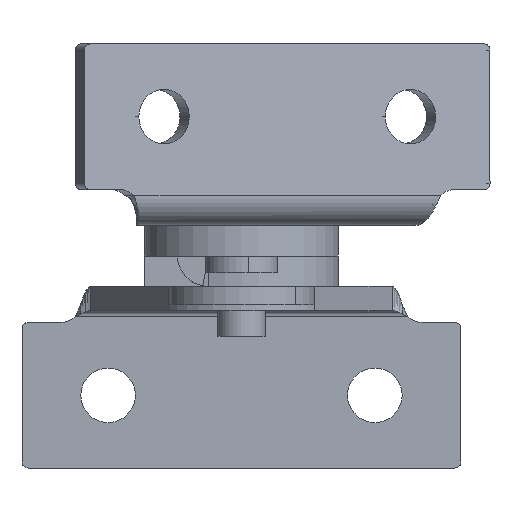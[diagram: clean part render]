
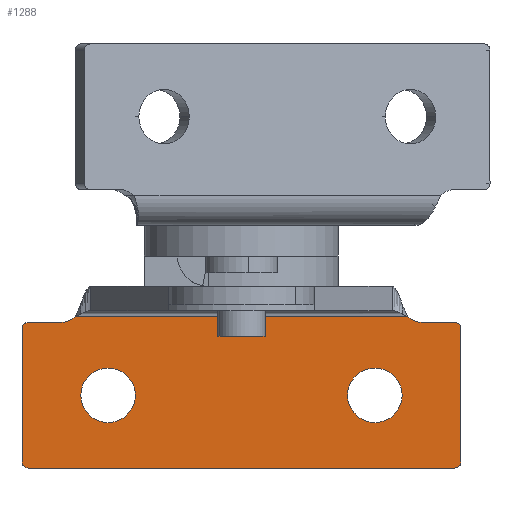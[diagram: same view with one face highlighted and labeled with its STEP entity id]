
A CAD part, left-side view. The second image highlights one B-rep face of the part: STEP entity #1288.
In plain terms, the highlighted planar face has unit normal (-1, 0, 0) as drawn and (0, 0, 1) by its records, which use the part's own axes.
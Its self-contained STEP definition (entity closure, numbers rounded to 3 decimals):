
#78 = AXIS2_PLACEMENT_3D ( 'NONE', #3071, #3076, #3094 ) ;
#79 = ORIENTED_EDGE ( 'NONE', *, *, #1983, .T. ) ;
#81 = VERTEX_POINT ( 'NONE', #2243 ) ;
#82 = DIRECTION ( 'NONE',  ( -1., 0., 0. ) ) ;
#118 = LINE ( 'NONE', #1682, #1425 ) ;
#125 = CARTESIAN_POINT ( 'NONE',  ( 15., 12.489, 0. ) ) ;
#133 = EDGE_CURVE ( 'NONE', #284, #2102, #696, .T. ) ;
#159 = ORIENTED_EDGE ( 'NONE', *, *, #2691, .T. ) ;
#182 = DIRECTION ( 'NONE',  ( -1., 0., 0. ) ) ;
#222 = LINE ( 'NONE', #125, #2673 ) ;
#237 = ORIENTED_EDGE ( 'NONE', *, *, #2628, .F. ) ;
#256 = CARTESIAN_POINT ( 'NONE',  ( 11., 6., 0. ) ) ;
#265 = DIRECTION ( 'NONE',  ( 0., 0., 1. ) ) ;
#272 = DIRECTION ( 'NONE',  ( 0., 1., 0. ) ) ;
#280 = CARTESIAN_POINT ( 'NONE',  ( 18.1, 0., 0. ) ) ;
#284 = VERTEX_POINT ( 'NONE', #2915 ) ;
#292 = DIRECTION ( 'NONE',  ( 1., 0., 0. ) ) ;
#307 = ORIENTED_EDGE ( 'NONE', *, *, #406, .F. ) ;
#368 = CARTESIAN_POINT ( 'NONE',  ( -15., 12., 0. ) ) ;
#406 = EDGE_CURVE ( 'NONE', #2102, #284, #2121, .T. ) ;
#428 = DIRECTION ( 'NONE',  ( 1., 0., 0. ) ) ;
#433 = DIRECTION ( 'NONE',  ( 0., 0., 1. ) ) ;
#440 = PLANE ( 'NONE',  #2817 ) ;
#461 = CIRCLE ( 'NONE', #983, 2.25 ) ;
#480 = EDGE_CURVE ( 'NONE', #1851, #2390, #1600, .T. ) ;
#495 = CARTESIAN_POINT ( 'NONE',  ( 15., 14., 0. ) ) ;
#537 = EDGE_CURVE ( 'NONE', #641, #2002, #1980, .T. ) ;
#571 = LINE ( 'NONE', #280, #3056 ) ;
#609 = CIRCLE ( 'NONE', #2244, 0.5 ) ;
#636 = DIRECTION ( 'NONE',  ( 1., 0., 0. ) ) ;
#641 = VERTEX_POINT ( 'NONE', #2138 ) ;
#649 = FACE_BOUND ( 'NONE', #1297, .T. ) ;
#653 = ORIENTED_EDGE ( 'NONE', *, *, #2927, .T. ) ;
#658 = DIRECTION ( 'NONE',  ( -1., 0., 0. ) ) ;
#695 = EDGE_CURVE ( 'NONE', #932, #81, #2233, .T. ) ;
#696 = CIRCLE ( 'NONE', #915, 2.25 ) ;
#708 = CARTESIAN_POINT ( 'NONE',  ( 18.1, 12., 0. ) ) ;
#715 = VERTEX_POINT ( 'NONE', #2697 ) ;
#727 = FACE_BOUND ( 'NONE', #1022, .T. ) ;
#732 = ORIENTED_EDGE ( 'NONE', *, *, #1562, .T. ) ;
#737 = CARTESIAN_POINT ( 'NONE',  ( 13.69, 12.489, 0. ) ) ;
#748 = AXIS2_PLACEMENT_3D ( 'NONE', #1265, #2400, #1200 ) ;
#809 = ORIENTED_EDGE ( 'NONE', *, *, #2545, .T. ) ;
#869 = EDGE_CURVE ( 'NONE', #81, #1910, #118, .T. ) ;
#873 = DIRECTION ( 'NONE',  ( 0., 0., 1. ) ) ;
#886 = CARTESIAN_POINT ( 'NONE',  ( 15., 12., 0. ) ) ;
#891 = ORIENTED_EDGE ( 'NONE', *, *, #2407, .F. ) ;
#893 = CARTESIAN_POINT ( 'NONE',  ( -17.6, 11.5, 0. ) ) ;
#914 = VERTEX_POINT ( 'NONE', #2949 ) ;
#915 = AXIS2_PLACEMENT_3D ( 'NONE', #2498, #2505, #2514 ) ;
#932 = VERTEX_POINT ( 'NONE', #2595 ) ;
#933 = CARTESIAN_POINT ( 'NONE',  ( -8.75, 6., 0. ) ) ;
#943 = CARTESIAN_POINT ( 'NONE',  ( -11., 6., 0. ) ) ;
#983 = AXIS2_PLACEMENT_3D ( 'NONE', #256, #265, #292 ) ;
#985 = DIRECTION ( 'NONE',  ( 0., 0., 1. ) ) ;
#996 = DIRECTION ( 'NONE',  ( 1., 0., 0. ) ) ;
#1022 = EDGE_LOOP ( 'NONE', ( #307, #2797 ) ) ;
#1103 = CARTESIAN_POINT ( 'NONE',  ( 11., 6., 0. ) ) ;
#1119 = DIRECTION ( 'NONE',  ( 0., 0., 1. ) ) ;
#1125 = DIRECTION ( 'NONE',  ( 1., 0., 0. ) ) ;
#1149 = VECTOR ( 'NONE', #658, 1000. ) ;
#1200 = DIRECTION ( 'NONE',  ( 1., 0., 0. ) ) ;
#1243 = DIRECTION ( 'NONE',  ( 1., 0., 0. ) ) ;
#1253 = AXIS2_PLACEMENT_3D ( 'NONE', #1620, #1664, #1243 ) ;
#1265 = CARTESIAN_POINT ( 'NONE',  ( -15., 14., 0. ) ) ;
#1288 = ADVANCED_FACE ( 'NONE', ( #727, #649, #2209 ), #440, .T. ) ;
#1297 = EDGE_LOOP ( 'NONE', ( #891, #237 ) ) ;
#1352 = EDGE_CURVE ( 'NONE', #914, #641, #571, .T. ) ;
#1388 = ORIENTED_EDGE ( 'NONE', *, *, #1597, .T. ) ;
#1402 = CARTESIAN_POINT ( 'NONE',  ( -17.6, 12., 0. ) ) ;
#1406 = CARTESIAN_POINT ( 'NONE',  ( -18.1, 12., 0. ) ) ;
#1425 = VECTOR ( 'NONE', #2611, 1000. ) ;
#1436 = DIRECTION ( 'NONE',  ( 0., -1., 0. ) ) ;
#1442 = CIRCLE ( 'NONE', #78, 0.5 ) ;
#1462 = ORIENTED_EDGE ( 'NONE', *, *, #537, .T. ) ;
#1502 = AXIS2_PLACEMENT_3D ( 'NONE', #1527, #1531, #1546 ) ;
#1527 = CARTESIAN_POINT ( 'NONE',  ( 15., 14., 0. ) ) ;
#1531 = DIRECTION ( 'NONE',  ( 0., 0., -1. ) ) ;
#1546 = DIRECTION ( 'NONE',  ( 1., 0., 0. ) ) ;
#1553 = LINE ( 'NONE', #1406, #2751 ) ;
#1562 = EDGE_CURVE ( 'NONE', #2437, #715, #609, .T. ) ;
#1564 = CARTESIAN_POINT ( 'NONE',  ( -15., 12., 0. ) ) ;
#1597 = EDGE_CURVE ( 'NONE', #2390, #2437, #2344, .T. ) ;
#1600 = CIRCLE ( 'NONE', #748, 2. ) ;
#1601 = CARTESIAN_POINT ( 'NONE',  ( -13.69, 12.489, 0. ) ) ;
#1620 = CARTESIAN_POINT ( 'NONE',  ( 17.6, 11.5, 0. ) ) ;
#1638 = CARTESIAN_POINT ( 'NONE',  ( 17.6, 0., 0. ) ) ;
#1664 = DIRECTION ( 'NONE',  ( 0., 0., 1. ) ) ;
#1682 = CARTESIAN_POINT ( 'NONE',  ( -18.1, 0., 0. ) ) ;
#1732 = VECTOR ( 'NONE', #182, 1000. ) ;
#1804 = CIRCLE ( 'NONE', #1502, 2. ) ;
#1851 = VERTEX_POINT ( 'NONE', #1601 ) ;
#1869 = AXIS2_PLACEMENT_3D ( 'NONE', #2477, #2460, #2524 ) ;
#1910 = VERTEX_POINT ( 'NONE', #1638 ) ;
#1921 = ORIENTED_EDGE ( 'NONE', *, *, #869, .T. ) ;
#1980 = CIRCLE ( 'NONE', #1253, 0.5 ) ;
#1981 = ORIENTED_EDGE ( 'NONE', *, *, #480, .T. ) ;
#1983 = EDGE_CURVE ( 'NONE', #715, #932, #1553, .T. ) ;
#2002 = VERTEX_POINT ( 'NONE', #2771 ) ;
#2021 = CARTESIAN_POINT ( 'NONE',  ( 8.75, 6., 0. ) ) ;
#2056 = ORIENTED_EDGE ( 'NONE', *, *, #1352, .T. ) ;
#2078 = CIRCLE ( 'NONE', #2329, 2.25 ) ;
#2102 = VERTEX_POINT ( 'NONE', #933 ) ;
#2109 = VERTEX_POINT ( 'NONE', #737 ) ;
#2121 = CIRCLE ( 'NONE', #2996, 2.25 ) ;
#2138 = CARTESIAN_POINT ( 'NONE',  ( 18.1, 11.5, 0. ) ) ;
#2209 = FACE_OUTER_BOUND ( 'NONE', #2782, .T. ) ;
#2233 = CIRCLE ( 'NONE', #1869, 0.5 ) ;
#2243 = CARTESIAN_POINT ( 'NONE',  ( -17.6, 0., 0. ) ) ;
#2244 = AXIS2_PLACEMENT_3D ( 'NONE', #893, #873, #636 ) ;
#2276 = EDGE_CURVE ( 'NONE', #2109, #1851, #222, .T. ) ;
#2303 = LINE ( 'NONE', #708, #1149 ) ;
#2329 = AXIS2_PLACEMENT_3D ( 'NONE', #1103, #1119, #1125 ) ;
#2330 = VERTEX_POINT ( 'NONE', #2585 ) ;
#2344 = LINE ( 'NONE', #368, #1732 ) ;
#2390 = VERTEX_POINT ( 'NONE', #1564 ) ;
#2400 = DIRECTION ( 'NONE',  ( 0., 0., -1. ) ) ;
#2407 = EDGE_CURVE ( 'NONE', #2330, #2870, #461, .T. ) ;
#2437 = VERTEX_POINT ( 'NONE', #1402 ) ;
#2460 = DIRECTION ( 'NONE',  ( 0., 0., 1. ) ) ;
#2477 = CARTESIAN_POINT ( 'NONE',  ( -17.6, 0.5, 0. ) ) ;
#2498 = CARTESIAN_POINT ( 'NONE',  ( -11., 6., 0. ) ) ;
#2505 = DIRECTION ( 'NONE',  ( 0., 0., 1. ) ) ;
#2514 = DIRECTION ( 'NONE',  ( 1., 0., 0. ) ) ;
#2524 = DIRECTION ( 'NONE',  ( 1., 0., 0. ) ) ;
#2545 = EDGE_CURVE ( 'NONE', #2002, #3014, #2303, .T. ) ;
#2558 = ORIENTED_EDGE ( 'NONE', *, *, #695, .T. ) ;
#2585 = CARTESIAN_POINT ( 'NONE',  ( 13.25, 6., 0. ) ) ;
#2595 = CARTESIAN_POINT ( 'NONE',  ( -18.1, 0.5, 0. ) ) ;
#2611 = DIRECTION ( 'NONE',  ( 1., 0., 0. ) ) ;
#2628 = EDGE_CURVE ( 'NONE', #2870, #2330, #2078, .T. ) ;
#2642 = ORIENTED_EDGE ( 'NONE', *, *, #2276, .T. ) ;
#2673 = VECTOR ( 'NONE', #82, 1000. ) ;
#2691 = EDGE_CURVE ( 'NONE', #3014, #2109, #1804, .T. ) ;
#2697 = CARTESIAN_POINT ( 'NONE',  ( -18.1, 11.5, 0. ) ) ;
#2751 = VECTOR ( 'NONE', #1436, 1000. ) ;
#2771 = CARTESIAN_POINT ( 'NONE',  ( 17.6, 12., 0. ) ) ;
#2782 = EDGE_LOOP ( 'NONE', ( #2056, #1462, #809, #159, #2642, #1981, #1388, #732, #79, #2558, #1921, #653 ) ) ;
#2797 = ORIENTED_EDGE ( 'NONE', *, *, #133, .F. ) ;
#2817 = AXIS2_PLACEMENT_3D ( 'NONE', #495, #433, #428 ) ;
#2870 = VERTEX_POINT ( 'NONE', #2021 ) ;
#2915 = CARTESIAN_POINT ( 'NONE',  ( -13.25, 6., 0. ) ) ;
#2927 = EDGE_CURVE ( 'NONE', #1910, #914, #1442, .T. ) ;
#2949 = CARTESIAN_POINT ( 'NONE',  ( 18.1, 0.5, 0. ) ) ;
#2996 = AXIS2_PLACEMENT_3D ( 'NONE', #943, #985, #996 ) ;
#3014 = VERTEX_POINT ( 'NONE', #886 ) ;
#3056 = VECTOR ( 'NONE', #272, 1000. ) ;
#3071 = CARTESIAN_POINT ( 'NONE',  ( 17.6, 0.5, 0. ) ) ;
#3076 = DIRECTION ( 'NONE',  ( 0., 0., 1. ) ) ;
#3094 = DIRECTION ( 'NONE',  ( 1., 0., 0. ) ) ;
